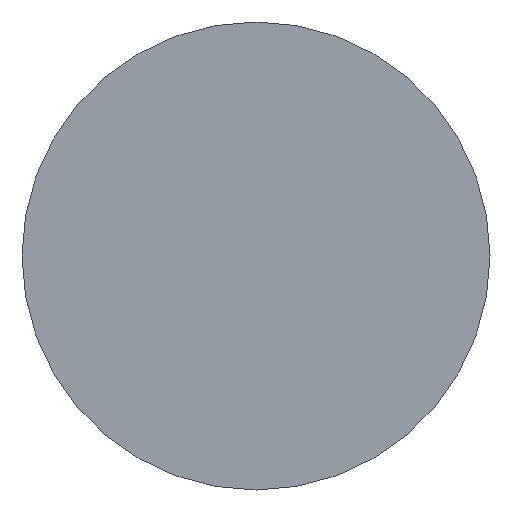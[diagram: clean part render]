
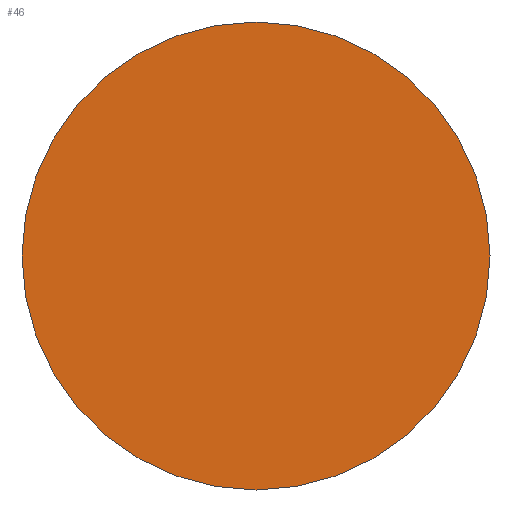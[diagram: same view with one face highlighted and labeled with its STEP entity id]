
A CAD part, left-side view. The second image highlights one B-rep face of the part: STEP entity #46.
In plain terms, the highlighted planar face has unit normal (-1, 0, 0).
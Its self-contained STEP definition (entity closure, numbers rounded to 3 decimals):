
#27 = CIRCLE ( 'NONE', #218, 5. ) ;
#46 = ADVANCED_FACE ( 'NONE', ( #229 ), #154, .T. ) ;
#48 = DIRECTION ( 'NONE',  ( 1., 0., 0. ) ) ;
#58 = ORIENTED_EDGE ( 'NONE', *, *, #192, .F. ) ;
#65 = AXIS2_PLACEMENT_3D ( 'NONE', #101, #48, #232 ) ;
#84 = CARTESIAN_POINT ( 'NONE',  ( 0., -5., 0. ) ) ;
#92 = CARTESIAN_POINT ( 'NONE',  ( 0., 0., 0. ) ) ;
#101 = CARTESIAN_POINT ( 'NONE',  ( 0., 0., 0. ) ) ;
#107 = ORIENTED_EDGE ( 'NONE', *, *, #267, .F. ) ;
#120 = AXIS2_PLACEMENT_3D ( 'NONE', #185, #142, #169 ) ;
#131 = VERTEX_POINT ( 'NONE', #84 ) ;
#142 = DIRECTION ( 'NONE',  ( -1., 0., 0. ) ) ;
#154 = PLANE ( 'NONE',  #120 ) ;
#159 = CIRCLE ( 'NONE', #65, 5. ) ;
#169 = DIRECTION ( 'NONE',  ( 0., -1., 0. ) ) ;
#185 = CARTESIAN_POINT ( 'NONE',  ( 0., 0., 0. ) ) ;
#190 = VERTEX_POINT ( 'NONE', #252 ) ;
#192 = EDGE_CURVE ( 'NONE', #190, #131, #159, .T. ) ;
#205 = EDGE_LOOP ( 'NONE', ( #58, #107 ) ) ;
#218 = AXIS2_PLACEMENT_3D ( 'NONE', #92, #263, #262 ) ;
#229 = FACE_OUTER_BOUND ( 'NONE', #205, .T. ) ;
#232 = DIRECTION ( 'NONE',  ( 0., 1., 0. ) ) ;
#252 = CARTESIAN_POINT ( 'NONE',  ( 0., 5., 0. ) ) ;
#262 = DIRECTION ( 'NONE',  ( 0., 1., 0. ) ) ;
#263 = DIRECTION ( 'NONE',  ( 1., 0., 0. ) ) ;
#267 = EDGE_CURVE ( 'NONE', #131, #190, #27, .T. ) ;
